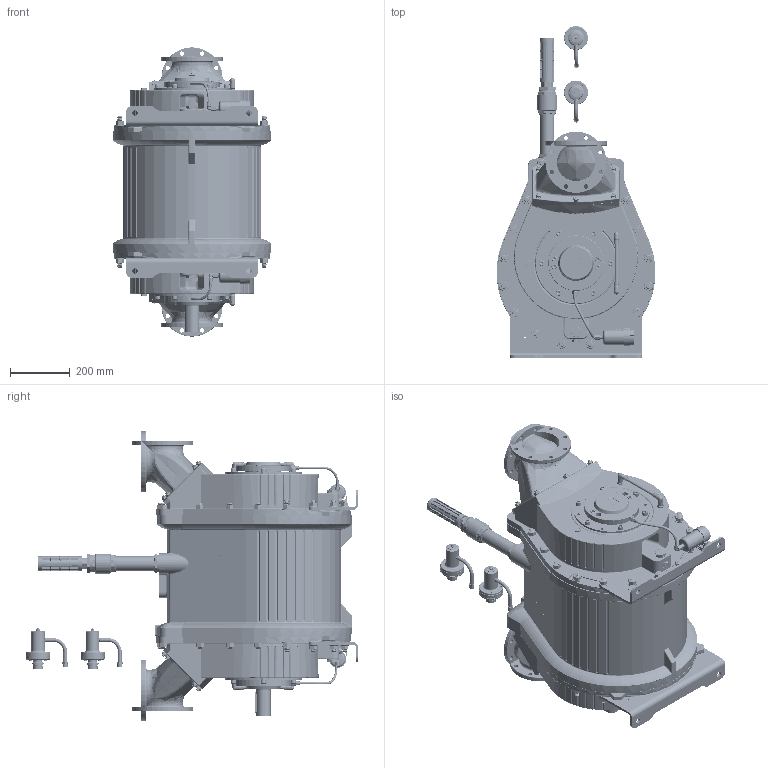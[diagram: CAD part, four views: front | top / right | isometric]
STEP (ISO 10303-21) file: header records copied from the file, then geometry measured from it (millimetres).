
FILE_DESCRIPTION(/* description */ (''),/* implementation_level */ '2;1');
FILE_NAME(/* name */ '1700164.stp',/* time_stamp */ '2026-04-22T13:26:11+02:00',/* author */ ('JJ'),/* organization */ (''),/* preprocessor_version */ 'ST-DEVELOPER v20',/* originating_system */ 'Autodesk Inventor 2025',/* authorisation */ '');
FILE_SCHEMA (('AUTOMOTIVE_DESIGN { 1 0 10303 214 3 1 1 }'));
Products named in the file (59): 1700164; 1659021; 1659049; 910100170; 910200008; 1634823; 1634808; 922000270; 910100021; 910100161; 944600276; 1634826; 1634811; 922000266; 1659046; 1659095; 915000217; 1634773; 915000215; 915000217_1; 915000232; 910300487; 910100191; 915000225; 915000225-part1; 915000225-part2; 944600240; 915000050; 1634824; 1634809; 922000269; 925000587; 925000590; 944600356; 944600355; 1659017; 1659069; 1634666; 1634667; 1634668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
Assembly tree (174 placements, depth 3):
  1700164
    1659017  x4
    1659069  x4
    1659021  x2
    910100021  x34
    910100161  x34
    910100170  x12
    910200008  x12
    1634823  x2
      1634808
      922000270
    1634826  x2
      1634811
      922000266
    1659049  x2
    944600276  x4
    1659046  x2
    1634824  x2
      1634809
      922000269
    1659095
    910300487  x2
    910100191  x2
    944600240  x2
    915000232  x2
    915000225  x2
      915000225-part1
      915000225-part2
    915000217
    1634773  x2
    915000215  x2
    915000217_1
    915000050
    925000587
    925000590
    944600356
    944600355
    1634666  x2
      1634667
      1634668
      1634130
      1634131
      1634670
      1634134
      910200105
      910100125
      910300428
      921000047
      922100045
      922100339
      1634669
      925000651
      910300012
    925000862  x2
    927000134-TM2500  x2
    1659079_Simplify_body
    1636087
      1636088
      922000307
Bounding box: 529.22 x 1107.24 x 965 mm (x, y, z)
Volume: 150130447.8 mm3; surface area: 5861940.2 mm2
Topology: 192 solids, 210 shells, 10358 faces, 26752 edges, 17252 vertices
Faces by surface type: plane 3886, bspline 2787, cylinder 2241, cone 901, torus 392, sphere 151
Full cylindrical faces by diameter (mm): 1.5 x16, 3.2 x4, 3.3 x4, 3.5 x2, 4 x3, 4.134 x4, 4.917 x2, 4.92 x10, 5 x2, 5.3 x2, 6 x46, 6.1 x2, 6.4 x2, 6.5 x8, 8 x30, 8.376 x14, 8.4 x2, 8.5 x2, 8.57 x2, 9.2 x2, 9.7 x2, 9.8 x4, 10 x188, 10.106 x9, 10.5 x12, 11 x62, 11.18 x2, 11.3 x4, 11.445 x2, 12 x31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
Entity records: 445744 total; most frequent: CARTESIAN_POINT 299747, ORIENTED_EDGE 31978, DIRECTION 24041, EDGE_CURVE 15989, VERTEX_POINT 10307, AXIS2_PLACEMENT_3D 8650, EDGE_LOOP 7034, LINE 6741
